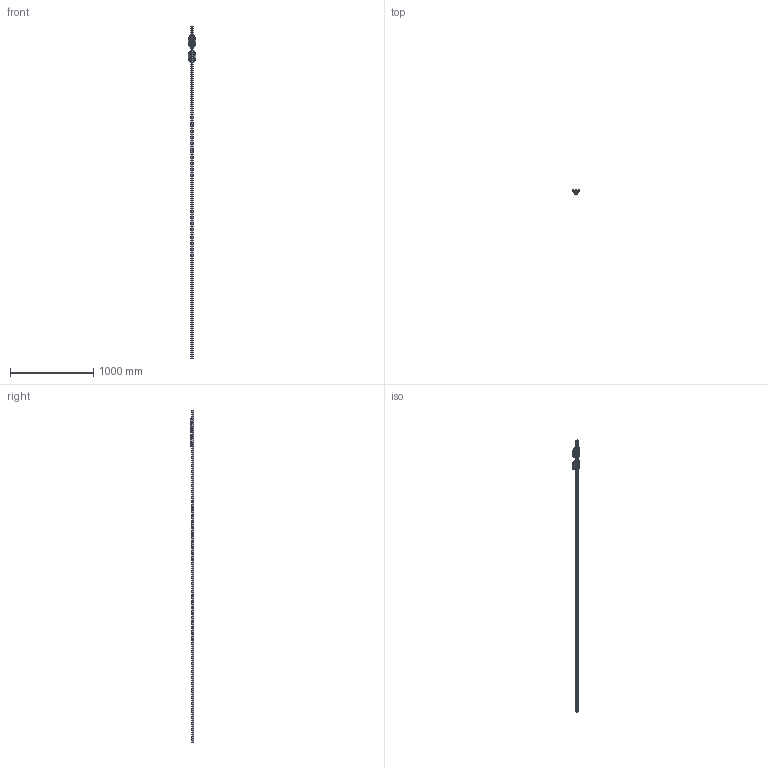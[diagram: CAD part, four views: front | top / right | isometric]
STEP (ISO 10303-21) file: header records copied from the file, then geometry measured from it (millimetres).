
FILE_DESCRIPTION((''),'2;1');
FILE_NAME('BRS30-LA_CUSTOMER_ASM_ASM_ASM','2020-11-24T09:06:33',('TWVS2025'),(''),'CREO PARAMETRIC BY PTC INC, 2018420','CREO PARAMETRIC BY PTC INC, 2018420','');
FILE_SCHEMA(('CONFIG_CONTROL_DESIGN'));
Products named in the file (7): BC-BRC30-LA_ASM_1_2_1_ASM; BC-BRC30-LA_ASM_1_ASM_1_ASM; BRR30_CUSTOMER_1_1_1; BRS30-LA_CUSTOMER_ASM_1_ASM_1_ASM; BC-BRD30-LA-ASM_ASM_1_ASM; BRS30-LA_CUSTOMER_ASM_ASM_1_ASM; BRS30-LA_CUSTOMER_ASM_ASM_ASM
Assembly tree (6 placements, depth 5):
  BRS30-LA_CUSTOMER_ASM_ASM_ASM
    BRS30-LA_CUSTOMER_ASM_ASM_1_ASM
      BRS30-LA_CUSTOMER_ASM_1_ASM_1_ASM
        BC-BRC30-LA_ASM_1_ASM_1_ASM
          BC-BRC30-LA_ASM_1_2_1_ASM
        BRR30_CUSTOMER_1_1_1
      BC-BRD30-LA-ASM_ASM_1_ASM
Bounding box: 89.95 x 42 x 4000 mm (x, y, z)
Volume: 2447739.2 mm3; surface area: 639886 mm2
Topology: 1 solids, 20 shells, 3891 faces, 11835 edges, 7652 vertices
Faces by surface type: plane 2292, cylinder 1003, sphere 152, torus 148, cone 144, bspline 136, extrusion 16
Entity records: 154626 total; most frequent: CARTESIAN_POINT 50190, ORIENTED_EDGE 23141, DIRECTION 20383, EDGE_CURVE 11659, VERTEX_POINT 7652, AXIS2_PLACEMENT_3D 6811, VECTOR 6761, LINE 6745
